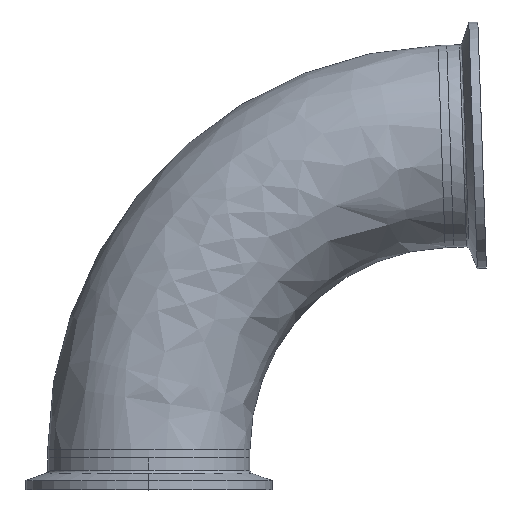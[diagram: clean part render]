
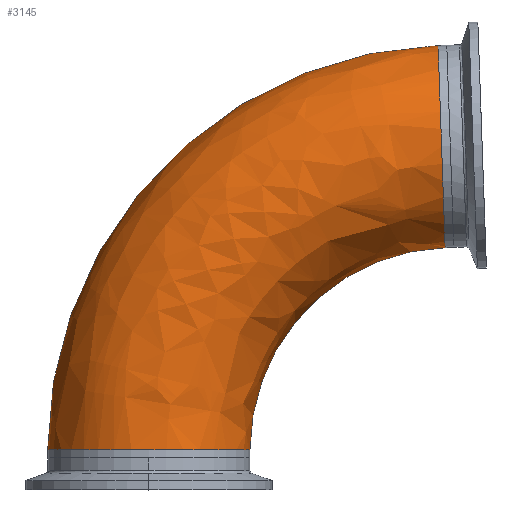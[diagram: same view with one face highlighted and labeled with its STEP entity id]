
A CAD part, top view. The second image highlights one B-rep face of the part: STEP entity #3145.
In plain terms, the highlighted free-form (B-spline) face has degree [3, 3] with [4, 4] control points.
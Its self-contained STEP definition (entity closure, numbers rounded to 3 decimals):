
#2 = CARTESIAN_POINT ( 'NONE',  ( 18.51, 126.961, 63.5 ) ) ;
#79 = AXIS2_PLACEMENT_3D ( 'NONE', #2751, #1155, #2988 ) ;
#250 = CARTESIAN_POINT ( 'NONE',  ( 31.75, 2.564, 63.5 ) ) ;
#345 = CIRCLE ( 'NONE', #2235, 127. ) ;
#350 = CARTESIAN_POINT ( 'NONE',  ( 31.75, 2.564, 0. ) ) ;
#357 = VERTEX_POINT ( 'NONE', #350 ) ;
#422 = CARTESIAN_POINT ( 'NONE',  ( 93.034, 66.025, 0. ) ) ;
#436 = CARTESIAN_POINT ( 'NONE',  ( 90.818, 129.486, 0. ) ) ;
#503 = CARTESIAN_POINT ( 'NONE',  ( 56.88, 64.762, 63.5 ) ) ;
#553 = CARTESIAN_POINT ( 'NONE',  ( 0., 2.564, 0. ) ) ;
#565 = DIRECTION ( 'NONE',  ( 0., 1., 0. ) ) ;
#642 = VERTEX_POINT ( 'NONE', #1705 ) ;
#648 = ORIENTED_EDGE ( 'NONE', *, *, #3270, .T. ) ;
#752 = CARTESIAN_POINT ( 'NONE',  ( 31.75, 2.564, 0. ) ) ;
#788 = AXIS2_PLACEMENT_3D ( 'NONE', #553, #565, #800 ) ;
#800 = DIRECTION ( 'NONE',  ( -1., 0., 0. ) ) ;
#929 = AXIS2_PLACEMENT_3D ( 'NONE', #2977, #1411, #3216 ) ;
#984 = CARTESIAN_POINT ( 'NONE',  ( -31.75, 74.916, 0. ) ) ;
#998 = CARTESIAN_POINT ( 'NONE',  ( 56.88, 64.762, 0. ) ) ;
#1109 = CARTESIAN_POINT ( 'NONE',  ( 95.25, 2.564, 0. ) ) ;
#1110 = EDGE_CURVE ( 'NONE', #642, #357, #2492, .T. ) ;
#1155 = DIRECTION ( 'NONE',  ( -0.999, -0.035, 0. ) ) ;
#1250 = CARTESIAN_POINT ( 'NONE',  ( 90.818, 129.486, 0. ) ) ;
#1303 = EDGE_LOOP ( 'NONE', ( #2234, #648, #2613, #1750 ) ) ;
#1382 = DIRECTION ( 'NONE',  ( -1., 0., 0. ) ) ;
#1411 = DIRECTION ( 'NONE',  ( 0., 0., -1. ) ) ;
#1486 = VERTEX_POINT ( 'NONE', #436 ) ;
#1529 = CARTESIAN_POINT ( 'NONE',  ( -31.75, 74.916, 63.5 ) ) ;
#1543 = FACE_OUTER_BOUND ( 'NONE', #1303, .T. ) ;
#1705 = CARTESIAN_POINT ( 'NONE',  ( -31.75, 2.564, 0. ) ) ;
#1750 = ORIENTED_EDGE ( 'NONE', *, *, #2638, .F. ) ;
#1799 = CARTESIAN_POINT ( 'NONE',  ( 90.818, 129.486, 63.5 ) ) ;
#2055 = CARTESIAN_POINT ( 'NONE',  ( 31.75, 38.74, 63.5 ) ) ;
#2234 = ORIENTED_EDGE ( 'NONE', *, *, #1110, .T. ) ;
#2235 = AXIS2_PLACEMENT_3D ( 'NONE', #1109, #2952, #1382 ) ;
#2323 = CARTESIAN_POINT ( 'NONE',  ( 93.034, 66.025, 63.5 ) ) ;
#2488 = VERTEX_POINT ( 'NONE', #422 ) ;
#2492 = CIRCLE ( 'NONE', #788, 31.75 ) ;
#2585 = CARTESIAN_POINT ( 'NONE',  ( 31.75, 38.74, 0. ) ) ;
#2613 = ORIENTED_EDGE ( 'NONE', *, *, #2675, .T. ) ;
#2620 =( BOUNDED_SURFACE ( )  B_SPLINE_SURFACE ( 3, 3, ( 
 ( #3305, #984, #2834, #1250 ),
 ( #3071, #1529, #2, #1799 ),
 ( #250, #2055, #503, #2323 ),
 ( #752, #2585, #998, #2842 ) ),
 .UNSPECIFIED., .F., .F., .F. ) 
 B_SPLINE_SURFACE_WITH_KNOTS ( ( 4, 4 ),
 ( 4, 4 ),
 ( 0., 1. ),
 ( 0., 1. ),
 .UNSPECIFIED. ) 
 GEOMETRIC_REPRESENTATION_ITEM ( )  RATIONAL_B_SPLINE_SURFACE ( (
 ( 1., 0.813, 0.813, 1.),
 ( 0.333, 0.271, 0.271, 0.333),
 ( 0.333, 0.271, 0.271, 0.333),
 ( 1., 0.813, 0.813, 1.) ) ) 
 REPRESENTATION_ITEM ( '' )  SURFACE ( )  );
#2638 = EDGE_CURVE ( 'NONE', #642, #1486, #345, .T. ) ;
#2675 = EDGE_CURVE ( 'NONE', #2488, #1486, #2931, .T. ) ;
#2751 = CARTESIAN_POINT ( 'NONE',  ( 91.926, 97.756, 0. ) ) ;
#2834 = CARTESIAN_POINT ( 'NONE',  ( 18.51, 126.961, 0. ) ) ;
#2842 = CARTESIAN_POINT ( 'NONE',  ( 93.034, 66.025, 0. ) ) ;
#2931 = CIRCLE ( 'NONE', #79, 31.75 ) ;
#2952 = DIRECTION ( 'NONE',  ( 0., 0., -1. ) ) ;
#2977 = CARTESIAN_POINT ( 'NONE',  ( 95.25, 2.564, 0. ) ) ;
#2988 = DIRECTION ( 'NONE',  ( -0.035, 0.999, 0. ) ) ;
#3071 = CARTESIAN_POINT ( 'NONE',  ( -31.75, 2.564, 63.5 ) ) ;
#3145 = ADVANCED_FACE ( 'NONE', ( #1543 ), #2620, .T. ) ;
#3216 = DIRECTION ( 'NONE',  ( -1., 0., 0. ) ) ;
#3270 = EDGE_CURVE ( 'NONE', #357, #2488, #3274, .T. ) ;
#3274 = CIRCLE ( 'NONE', #929, 63.5 ) ;
#3305 = CARTESIAN_POINT ( 'NONE',  ( -31.75, 2.564, 0. ) ) ;
